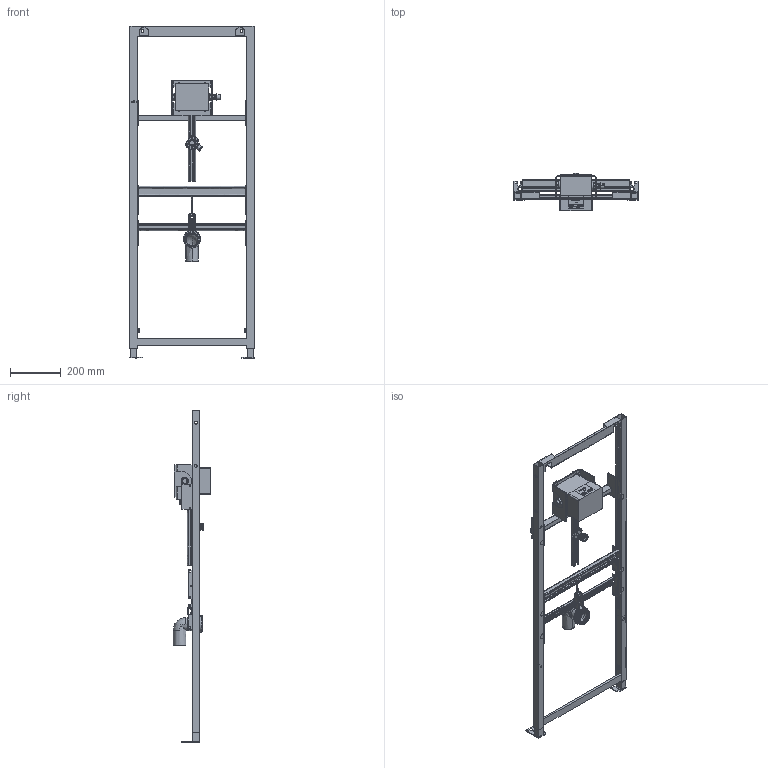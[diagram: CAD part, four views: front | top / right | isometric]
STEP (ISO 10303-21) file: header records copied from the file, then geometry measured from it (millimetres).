
FILE_DESCRIPTION(('STEP AP214'),'1');
FILE_NAME('pim0009838.stp','2016-01-13T13:12:53',('CAD-PIM'),('TransMagic, Inc.'),'TMR11sp0','TransMagic R11',' ');
FILE_SCHEMA(('AUTOMOTIVE_DESIGN'));
Length unit declared in the file: millimetre
Products named in the file (1): 1
Bounding box: 490 x 147.65 x 1308.5 mm (x, y, z)
Volume: 3239547.9 mm3; surface area: 1334281 mm2
Topology: 1 solids, 1 shells, 3648 faces, 10097 edges, 6548 vertices
Faces by surface type: bspline 3648
Entity records: 235554 total; most frequent: CARTESIAN_POINT 42772, STYLED_ITEM 20275, PRESENTATION_STYLE_ASSIGNMENT 20275, COLOUR_RGB 20275, ORIENTED_EDGE 20156, DIRECTION 10373, EDGE_CURVE 10078, CURVE_STYLE 10078
